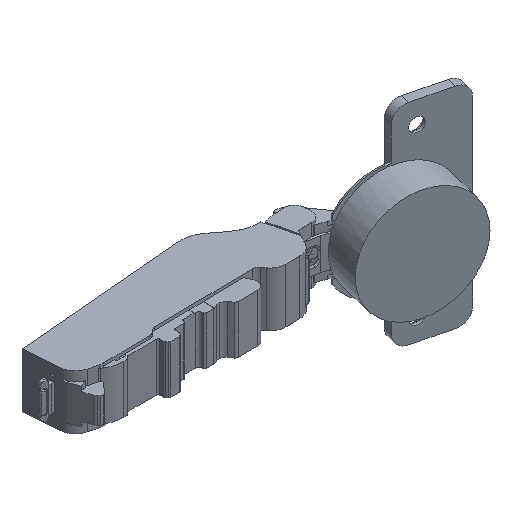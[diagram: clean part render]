
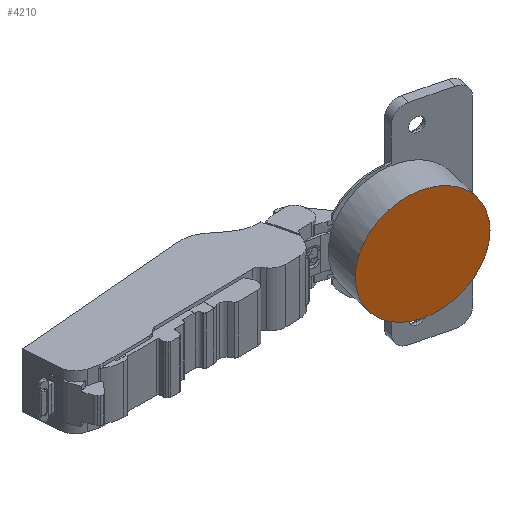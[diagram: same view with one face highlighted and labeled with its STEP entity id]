
A CAD part, isometric view. The second image highlights one B-rep face of the part: STEP entity #4210.
In plain terms, the highlighted planar face has unit normal (-0.238, -0.971, 0).
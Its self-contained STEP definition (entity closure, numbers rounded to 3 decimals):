
#159 = EDGE_CURVE ( 'NONE', #2852, #7691, #2838, .T. ) ;
#911 = EDGE_LOOP ( 'NONE', ( #12425, #11795 ) ) ;
#1562 = AXIS2_PLACEMENT_3D ( 'NONE', #3586, #7808, #12022 ) ;
#1864 = EDGE_CURVE ( 'NONE', #7691, #2852, #3134, .T. ) ;
#2285 = AXIS2_PLACEMENT_3D ( 'NONE', #11220, #3608, #13169 ) ;
#2388 = AXIS2_PLACEMENT_3D ( 'NONE', #4244, #13544, #5024 ) ;
#2838 = CIRCLE ( 'NONE', #2388, 17.401 ) ;
#2852 = VERTEX_POINT ( 'NONE', #8187 ) ;
#3134 = CIRCLE ( 'NONE', #1562, 17.401 ) ;
#3586 = CARTESIAN_POINT ( 'NONE',  ( 23.589, -6.247, 0. ) ) ;
#3608 = DIRECTION ( 'NONE',  ( -0.238, -0.971, 0. ) ) ;
#3658 = CARTESIAN_POINT ( 'NONE',  ( 40.49, -10.391, 0. ) ) ;
#4210 = ADVANCED_FACE ( 'NONE', ( #9006 ), #6801, .T. ) ;
#4244 = CARTESIAN_POINT ( 'NONE',  ( 23.589, -6.247, 0. ) ) ;
#5024 = DIRECTION ( 'NONE',  ( 0.971, -0.238, 0. ) ) ;
#6801 = PLANE ( 'NONE',  #2285 ) ;
#7691 = VERTEX_POINT ( 'NONE', #3658 ) ;
#7808 = DIRECTION ( 'NONE',  ( -0.238, -0.971, 0. ) ) ;
#8187 = CARTESIAN_POINT ( 'NONE',  ( 6.689, -2.103, 0. ) ) ;
#9006 = FACE_OUTER_BOUND ( 'NONE', #911, .T. ) ;
#11220 = CARTESIAN_POINT ( 'NONE',  ( 23.589, -6.247, 0. ) ) ;
#11795 = ORIENTED_EDGE ( 'NONE', *, *, #159, .T. ) ;
#12022 = DIRECTION ( 'NONE',  ( 0.971, -0.238, 0. ) ) ;
#12425 = ORIENTED_EDGE ( 'NONE', *, *, #1864, .T. ) ;
#13169 = DIRECTION ( 'NONE',  ( 0.971, -0.238, 0. ) ) ;
#13544 = DIRECTION ( 'NONE',  ( -0.238, -0.971, 0. ) ) ;
